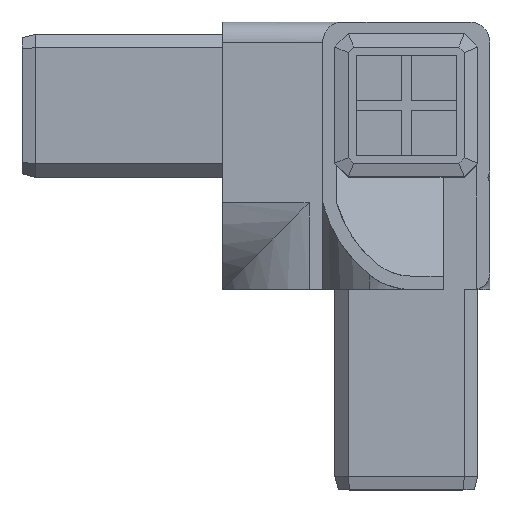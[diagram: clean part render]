
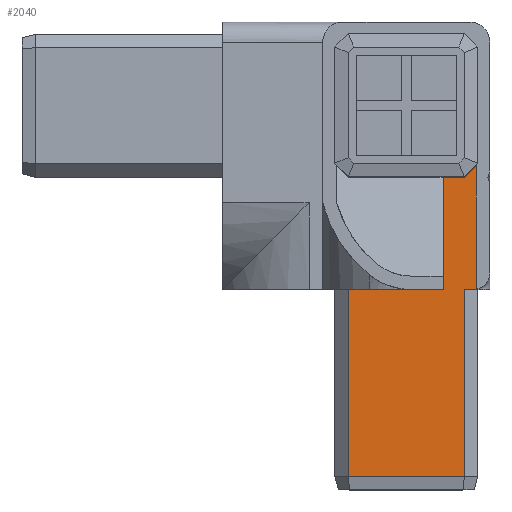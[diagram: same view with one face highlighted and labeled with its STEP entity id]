
A CAD part, top view. The second image highlights one B-rep face of the part: STEP entity #2040.
In plain terms, the highlighted planar face has unit normal (0, 0, 1).
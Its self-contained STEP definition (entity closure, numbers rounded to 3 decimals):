
#54 = VERTEX_POINT ( 'NONE', #1942 ) ;
#160 = EDGE_CURVE ( 'NONE', #1613, #1741, #236, .T. ) ;
#209 = LINE ( 'NONE', #586, #3941 ) ;
#222 = CARTESIAN_POINT ( 'NONE',  ( -22.1, 17.572, 23.2 ) ) ;
#236 = LINE ( 'NONE', #1962, #4165 ) ;
#313 = DIRECTION ( 'NONE',  ( 0., 1., 0. ) ) ;
#400 = ORIENTED_EDGE ( 'NONE', *, *, #1860, .F. ) ;
#496 = CARTESIAN_POINT ( 'NONE',  ( -22.1, 0., 23.2 ) ) ;
#505 = CARTESIAN_POINT ( 'NONE',  ( -2., 18.6, 23.2 ) ) ;
#511 = ORIENTED_EDGE ( 'NONE', *, *, #1995, .T. ) ;
#516 = VERTEX_POINT ( 'NONE', #4059 ) ;
#586 = CARTESIAN_POINT ( 'NONE',  ( -25., 0., 23.2 ) ) ;
#664 = AXIS2_PLACEMENT_3D ( 'NONE', #2985, #3664, #1886 ) ;
#756 = EDGE_CURVE ( 'NONE', #516, #4081, #2845, .T. ) ;
#758 = CARTESIAN_POINT ( 'NONE',  ( -25., 0., 23.2 ) ) ;
#798 = VECTOR ( 'NONE', #2481, 1000. ) ;
#813 = ORIENTED_EDGE ( 'NONE', *, *, #756, .T. ) ;
#895 = EDGE_CURVE ( 'NONE', #1613, #3146, #3378, .T. ) ;
#925 = ORIENTED_EDGE ( 'NONE', *, *, #988, .T. ) ;
#940 = LINE ( 'NONE', #222, #1218 ) ;
#964 = VECTOR ( 'NONE', #3119, 1000. ) ;
#970 = CARTESIAN_POINT ( 'NONE',  ( -21.2, -28., 23.2 ) ) ;
#988 = EDGE_CURVE ( 'NONE', #3067, #1051, #4633, .T. ) ;
#1010 = EDGE_CURVE ( 'NONE', #2680, #4591, #3953, .T. ) ;
#1017 = VECTOR ( 'NONE', #1069, 1000. ) ;
#1038 = EDGE_CURVE ( 'NONE', #1051, #2399, #940, .T. ) ;
#1051 = VERTEX_POINT ( 'NONE', #4240 ) ;
#1069 = DIRECTION ( 'NONE',  ( 0., -1., 0. ) ) ;
#1096 = CARTESIAN_POINT ( 'NONE',  ( -23.2, -28., 23.2 ) ) ;
#1140 = CARTESIAN_POINT ( 'NONE',  ( -2., 0., 23.2 ) ) ;
#1197 = DIRECTION ( 'NONE',  ( -0.707, -0.707, 0. ) ) ;
#1218 = VECTOR ( 'NONE', #4264, 1000. ) ;
#1262 = ORIENTED_EDGE ( 'NONE', *, *, #1010, .T. ) ;
#1411 = EDGE_CURVE ( 'NONE', #3067, #54, #2502, .T. ) ;
#1435 = CARTESIAN_POINT ( 'NONE',  ( -21.2, -30., 23.2 ) ) ;
#1521 = LINE ( 'NONE', #758, #2490 ) ;
#1613 = VERTEX_POINT ( 'NONE', #505 ) ;
#1732 = CARTESIAN_POINT ( 'NONE',  ( -23.2, 15.386, 23.2 ) ) ;
#1741 = VERTEX_POINT ( 'NONE', #1140 ) ;
#1748 = EDGE_LOOP ( 'NONE', ( #813, #511, #1262, #400, #2216, #4429, #3313, #3290, #925, #3601, #2974 ) ) ;
#1758 = CARTESIAN_POINT ( 'NONE',  ( -3.8, -28., 23.2 ) ) ;
#1800 = CARTESIAN_POINT ( 'NONE',  ( -3.8, 0., 23.2 ) ) ;
#1860 = EDGE_CURVE ( 'NONE', #1741, #4591, #209, .T. ) ;
#1886 = DIRECTION ( 'NONE',  ( 1., 0., 0. ) ) ;
#1942 = CARTESIAN_POINT ( 'NONE',  ( -7., 16.8, 23.2 ) ) ;
#1962 = CARTESIAN_POINT ( 'NONE',  ( -2., 0., 23.2 ) ) ;
#1995 = EDGE_CURVE ( 'NONE', #4081, #2680, #2146, .T. ) ;
#2040 = ADVANCED_FACE ( 'NONE', ( #3295 ), #2237, .T. ) ;
#2041 = CARTESIAN_POINT ( 'NONE',  ( -25., 16.8, 23.2 ) ) ;
#2146 = LINE ( 'NONE', #1096, #798 ) ;
#2216 = ORIENTED_EDGE ( 'NONE', *, *, #160, .F. ) ;
#2237 = PLANE ( 'NONE',  #664 ) ;
#2344 = LINE ( 'NONE', #2041, #964 ) ;
#2399 = VERTEX_POINT ( 'NONE', #496 ) ;
#2481 = DIRECTION ( 'NONE',  ( 1., 0., 0. ) ) ;
#2490 = VECTOR ( 'NONE', #2881, 1000. ) ;
#2502 = LINE ( 'NONE', #2805, #3570 ) ;
#2531 = DIRECTION ( 'NONE',  ( -1., 0., 0. ) ) ;
#2680 = VERTEX_POINT ( 'NONE', #1758 ) ;
#2737 = DIRECTION ( 'NONE',  ( -1., 0., 0. ) ) ;
#2740 = CARTESIAN_POINT ( 'NONE',  ( -3.8, 16.8, 23.2 ) ) ;
#2770 = CARTESIAN_POINT ( 'NONE',  ( -7., 15.386, 23.2 ) ) ;
#2805 = CARTESIAN_POINT ( 'NONE',  ( -7., -30., 23.2 ) ) ;
#2831 = EDGE_CURVE ( 'NONE', #516, #2399, #1521, .T. ) ;
#2845 = LINE ( 'NONE', #1435, #1017 ) ;
#2881 = DIRECTION ( 'NONE',  ( -1., 0., 0. ) ) ;
#2974 = ORIENTED_EDGE ( 'NONE', *, *, #2831, .F. ) ;
#2985 = CARTESIAN_POINT ( 'NONE',  ( -23.2, -30., 23.2 ) ) ;
#3053 = CARTESIAN_POINT ( 'NONE',  ( -1.8, 18.8, 23.2 ) ) ;
#3067 = VERTEX_POINT ( 'NONE', #2770 ) ;
#3119 = DIRECTION ( 'NONE',  ( 1., 0., 0. ) ) ;
#3146 = VERTEX_POINT ( 'NONE', #2740 ) ;
#3290 = ORIENTED_EDGE ( 'NONE', *, *, #1411, .F. ) ;
#3295 = FACE_OUTER_BOUND ( 'NONE', #1748, .T. ) ;
#3313 = ORIENTED_EDGE ( 'NONE', *, *, #4372, .F. ) ;
#3378 = LINE ( 'NONE', #3053, #3834 ) ;
#3393 = DIRECTION ( 'NONE',  ( 0., -1., 0. ) ) ;
#3543 = VECTOR ( 'NONE', #313, 1000. ) ;
#3570 = VECTOR ( 'NONE', #3923, 1000. ) ;
#3601 = ORIENTED_EDGE ( 'NONE', *, *, #1038, .T. ) ;
#3664 = DIRECTION ( 'NONE',  ( 0., 0., 1. ) ) ;
#3834 = VECTOR ( 'NONE', #1197, 1000. ) ;
#3923 = DIRECTION ( 'NONE',  ( 0., 1., 0. ) ) ;
#3941 = VECTOR ( 'NONE', #2737, 1000. ) ;
#3953 = LINE ( 'NONE', #4287, #3543 ) ;
#4059 = CARTESIAN_POINT ( 'NONE',  ( -21.2, 0., 23.2 ) ) ;
#4081 = VERTEX_POINT ( 'NONE', #970 ) ;
#4165 = VECTOR ( 'NONE', #3393, 1000. ) ;
#4240 = CARTESIAN_POINT ( 'NONE',  ( -22.1, 15.386, 23.2 ) ) ;
#4264 = DIRECTION ( 'NONE',  ( 0., -1., 0. ) ) ;
#4287 = CARTESIAN_POINT ( 'NONE',  ( -3.8, -30., 23.2 ) ) ;
#4360 = VECTOR ( 'NONE', #2531, 1000. ) ;
#4372 = EDGE_CURVE ( 'NONE', #54, #3146, #2344, .T. ) ;
#4429 = ORIENTED_EDGE ( 'NONE', *, *, #895, .T. ) ;
#4591 = VERTEX_POINT ( 'NONE', #1800 ) ;
#4633 = LINE ( 'NONE', #1732, #4360 ) ;
